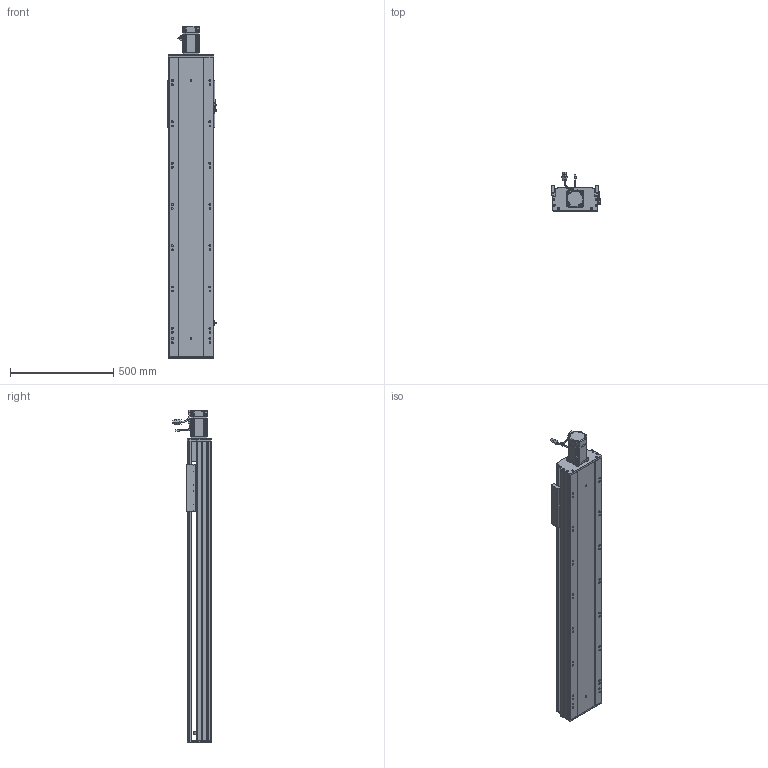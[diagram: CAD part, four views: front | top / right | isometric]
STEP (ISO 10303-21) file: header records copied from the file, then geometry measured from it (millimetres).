
FILE_DESCRIPTION (( 'STEP AP203' ), '1' );
FILE_NAME ('RY220-L2525-300-MK.SLDASM_1050.step', '2022-07-04T02:57:56', ( '' ), ( '' ), 'SwSTEP 2.0', 'SolidWorks 2016', '' );
FILE_SCHEMA (( 'CONFIG_CONTROL_DESIGN' ));
Length unit declared in the file: millimetre
Products named in the file (12): 滅袉蝶18-15; RY220-300-奻裔啣-MK_1050; RY220ヶ裔啣; RY220半封闭25-32螺母铝滑块; 怢湛750W_ECMA-CX0807ES; 覜茼ん672; RY220-俋离672覜茼んえ; 滅袉蝶18-12; RY220綴裔啣; RY220电机支撑座FK20（PCD90M6）; RY220菁釱MK-300_1050; RY220-L2525-300-MK.SLDASM_1050
Assembly tree (15 placements, depth 2):
  RY220-L2525-300-MK.SLDASM_1050
    RY220菁釱MK-300_1050
    RY220电机支撑座FK20（PCD90M6）
    怢湛750W_ECMA-CX0807ES
    滅袉蝶18-12  x2
    RY220ヶ裔啣
    RY220綴裔啣
    覜茼ん672  x3
    RY220半封闭25-32螺母铝滑块
    RY220-300-奻裔啣-MK_1050
    RY220-俋离672覜茼んえ
    滅袉蝶18-15  x2
Bounding box: 238.7 x 187.27 x 1608.3 mm (x, y, z)
Volume: 12692256 mm3; surface area: 3538506 mm2
Topology: 16 solids, 16 shells, 2236 faces, 6202 edges, 3914 vertices
Faces by surface type: cylinder 1014, plane 907, cone 253, bspline 36, sphere 16, torus 10
Entity records: 73634 total; most frequent: CARTESIAN_POINT 20961, ORIENTED_EDGE 10936, DIRECTION 10351, EDGE_CURVE 5468, AXIS2_PLACEMENT_3D 3649, VERTEX_POINT 3570, LINE 3053, VECTOR 3053
